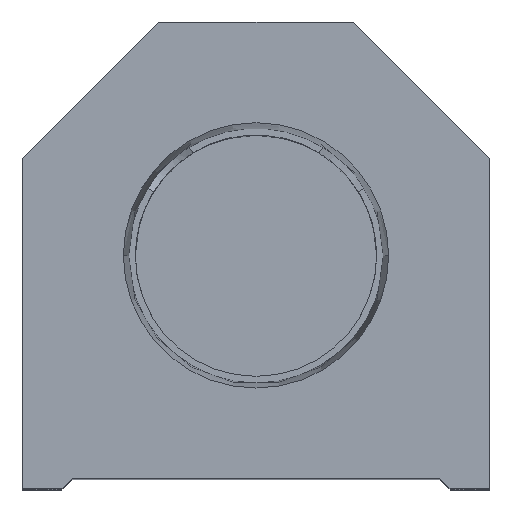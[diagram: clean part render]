
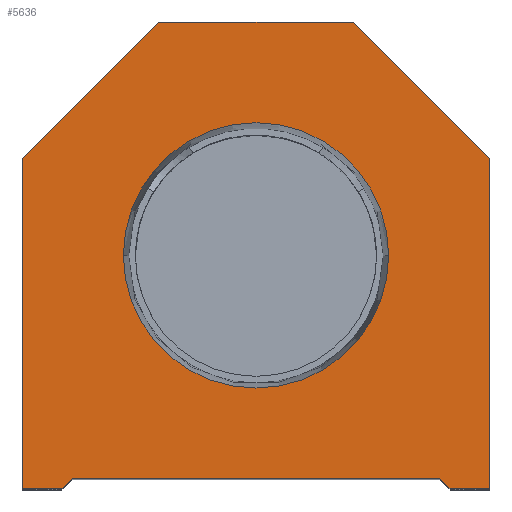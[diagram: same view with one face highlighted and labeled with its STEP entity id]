
A CAD part, top view. The second image highlights one B-rep face of the part: STEP entity #5636.
In plain terms, the highlighted planar face has unit normal (0, 0, 1).
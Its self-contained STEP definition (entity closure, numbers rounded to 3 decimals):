
#12 = CARTESIAN_POINT ( 'NONE',  ( -9.25, 9.25, 0. ) ) ;
#229 = VECTOR ( 'NONE', #7846, 1000. ) ;
#536 = VECTOR ( 'NONE', #2665, 1000. ) ;
#768 = CARTESIAN_POINT ( 'NONE',  ( 22.25, 0., 0. ) ) ;
#825 = CARTESIAN_POINT ( 'NONE',  ( 0., 0., 0. ) ) ;
#911 = LINE ( 'NONE', #18359, #536 ) ;
#1008 = ORIENTED_EDGE ( 'NONE', *, *, #8110, .T. ) ;
#1281 = VERTEX_POINT ( 'NONE', #10332 ) ;
#1407 = EDGE_CURVE ( 'NONE', #5746, #14649, #14899, .T. ) ;
#1454 = EDGE_CURVE ( 'NONE', #6458, #1915, #911, .T. ) ;
#1888 = CARTESIAN_POINT ( 'NONE',  ( 22.25, 31.5, 0. ) ) ;
#1915 = VERTEX_POINT ( 'NONE', #8587 ) ;
#2560 = EDGE_CURVE ( 'NONE', #14453, #5746, #16143, .T. ) ;
#2564 = DIRECTION ( 'NONE',  ( 0.707, -0.707, 0. ) ) ;
#2656 = VECTOR ( 'NONE', #14077, 1000. ) ;
#2665 = DIRECTION ( 'NONE',  ( 1., 0., 0. ) ) ;
#2753 = ORIENTED_EDGE ( 'NONE', *, *, #17140, .F. ) ;
#2993 = VERTEX_POINT ( 'NONE', #14146 ) ;
#3255 = CARTESIAN_POINT ( 'NONE',  ( 9.25, 44.5, 0. ) ) ;
#3690 = VERTEX_POINT ( 'NONE', #17332 ) ;
#4191 = ORIENTED_EDGE ( 'NONE', *, *, #2560, .T. ) ;
#4541 = LINE ( 'NONE', #10265, #16529 ) ;
#4556 = VECTOR ( 'NONE', #13725, 1000. ) ;
#4579 = CARTESIAN_POINT ( 'NONE',  ( -22.25, 31.5, 0. ) ) ;
#4732 = DIRECTION ( 'NONE',  ( -1., 0., 0. ) ) ;
#5038 = EDGE_CURVE ( 'NONE', #2993, #13593, #7994, .T. ) ;
#5636 = ADVANCED_FACE ( 'NONE', ( #15078, #6550 ), #13766, .T. ) ;
#5655 = CIRCLE ( 'NONE', #8309, 12.647 ) ;
#5746 = VERTEX_POINT ( 'NONE', #12251 ) ;
#6011 = CARTESIAN_POINT ( 'NONE',  ( -22.25, 0., 0. ) ) ;
#6127 = EDGE_CURVE ( 'NONE', #8175, #8854, #4541, .T. ) ;
#6164 = LINE ( 'NONE', #1888, #6394 ) ;
#6294 = CARTESIAN_POINT ( 'NONE',  ( -17.5, 1., 0. ) ) ;
#6394 = VECTOR ( 'NONE', #7918, 1000. ) ;
#6436 = AXIS2_PLACEMENT_3D ( 'NONE', #825, #6465, #12204 ) ;
#6458 = VERTEX_POINT ( 'NONE', #6294 ) ;
#6465 = DIRECTION ( 'NONE',  ( 0., 0., 1. ) ) ;
#6497 = VERTEX_POINT ( 'NONE', #16213 ) ;
#6550 = FACE_OUTER_BOUND ( 'NONE', #14348, .T. ) ;
#6985 = LINE ( 'NONE', #9823, #15959 ) ;
#7029 = CARTESIAN_POINT ( 'NONE',  ( 0., 22.25, 0. ) ) ;
#7383 = EDGE_CURVE ( 'NONE', #1281, #6497, #12078, .T. ) ;
#7776 = DIRECTION ( 'NONE',  ( 0., -1., 0. ) ) ;
#7846 = DIRECTION ( 'NONE',  ( -0.707, -0.707, 0. ) ) ;
#7918 = DIRECTION ( 'NONE',  ( -0.707, 0.707, 0. ) ) ;
#7985 = EDGE_CURVE ( 'NONE', #1915, #2993, #6985, .T. ) ;
#7994 = LINE ( 'NONE', #15402, #4556 ) ;
#8009 = EDGE_LOOP ( 'NONE', ( #2753, #11025 ) ) ;
#8110 = EDGE_CURVE ( 'NONE', #3690, #14453, #6164, .T. ) ;
#8118 = ORIENTED_EDGE ( 'NONE', *, *, #7985, .T. ) ;
#8175 = VERTEX_POINT ( 'NONE', #12623 ) ;
#8309 = AXIS2_PLACEMENT_3D ( 'NONE', #13192, #10496, #13383 ) ;
#8587 = CARTESIAN_POINT ( 'NONE',  ( 17.5, 1., 0. ) ) ;
#8638 = ORIENTED_EDGE ( 'NONE', *, *, #1407, .T. ) ;
#8690 = CARTESIAN_POINT ( 'NONE',  ( 22.25, 0., 0. ) ) ;
#8854 = VERTEX_POINT ( 'NONE', #14665 ) ;
#9114 = VECTOR ( 'NONE', #7776, 1000. ) ;
#9823 = CARTESIAN_POINT ( 'NONE',  ( 9.25, 9.25, 0. ) ) ;
#9973 = LINE ( 'NONE', #12, #2656 ) ;
#10265 = CARTESIAN_POINT ( 'NONE',  ( -17.5, 0., 0. ) ) ;
#10332 = CARTESIAN_POINT ( 'NONE',  ( -12.647, 22.25, 0. ) ) ;
#10496 = DIRECTION ( 'NONE',  ( 0., 0., 1. ) ) ;
#10716 = ORIENTED_EDGE ( 'NONE', *, *, #1454, .T. ) ;
#11025 = ORIENTED_EDGE ( 'NONE', *, *, #7383, .F. ) ;
#11465 = DIRECTION ( 'NONE',  ( 1., 0., 0. ) ) ;
#11734 = ORIENTED_EDGE ( 'NONE', *, *, #13169, .T. ) ;
#12078 = CIRCLE ( 'NONE', #15343, 12.647 ) ;
#12204 = DIRECTION ( 'NONE',  ( 1., 0., 0. ) ) ;
#12251 = CARTESIAN_POINT ( 'NONE',  ( -9.25, 44.5, 0. ) ) ;
#12623 = CARTESIAN_POINT ( 'NONE',  ( -22.25, 0., 0. ) ) ;
#13169 = EDGE_CURVE ( 'NONE', #14649, #8175, #17739, .T. ) ;
#13192 = CARTESIAN_POINT ( 'NONE',  ( 0., 22.25, 0. ) ) ;
#13383 = DIRECTION ( 'NONE',  ( 1., 0., 0. ) ) ;
#13593 = VERTEX_POINT ( 'NONE', #8690 ) ;
#13725 = DIRECTION ( 'NONE',  ( 1., 0., 0. ) ) ;
#13766 = PLANE ( 'NONE',  #6436 ) ;
#13799 = ORIENTED_EDGE ( 'NONE', *, *, #5038, .T. ) ;
#14077 = DIRECTION ( 'NONE',  ( 0.707, 0.707, 0. ) ) ;
#14146 = CARTESIAN_POINT ( 'NONE',  ( 18.5, 0., 0. ) ) ;
#14256 = DIRECTION ( 'NONE',  ( 0., 0., 1. ) ) ;
#14348 = EDGE_LOOP ( 'NONE', ( #16878, #17856, #10716, #8118, #13799, #15382, #1008, #4191, #8638, #11734 ) ) ;
#14453 = VERTEX_POINT ( 'NONE', #14587 ) ;
#14587 = CARTESIAN_POINT ( 'NONE',  ( 9.25, 44.5, 0. ) ) ;
#14649 = VERTEX_POINT ( 'NONE', #4579 ) ;
#14665 = CARTESIAN_POINT ( 'NONE',  ( -18.5, 0., 0. ) ) ;
#14731 = DIRECTION ( 'NONE',  ( 0., 1., 0. ) ) ;
#14899 = LINE ( 'NONE', #16401, #229 ) ;
#14926 = LINE ( 'NONE', #768, #15201 ) ;
#15078 = FACE_BOUND ( 'NONE', #8009, .T. ) ;
#15201 = VECTOR ( 'NONE', #14731, 1000. ) ;
#15343 = AXIS2_PLACEMENT_3D ( 'NONE', #7029, #14256, #11465 ) ;
#15382 = ORIENTED_EDGE ( 'NONE', *, *, #16671, .T. ) ;
#15402 = CARTESIAN_POINT ( 'NONE',  ( 17.5, 0., 0. ) ) ;
#15959 = VECTOR ( 'NONE', #2564, 1000. ) ;
#16092 = EDGE_CURVE ( 'NONE', #8854, #6458, #9973, .T. ) ;
#16143 = LINE ( 'NONE', #3255, #16599 ) ;
#16213 = CARTESIAN_POINT ( 'NONE',  ( 12.647, 22.25, 0. ) ) ;
#16401 = CARTESIAN_POINT ( 'NONE',  ( -22.25, 31.5, 0. ) ) ;
#16529 = VECTOR ( 'NONE', #17006, 1000. ) ;
#16599 = VECTOR ( 'NONE', #4732, 1000. ) ;
#16671 = EDGE_CURVE ( 'NONE', #13593, #3690, #14926, .T. ) ;
#16878 = ORIENTED_EDGE ( 'NONE', *, *, #6127, .T. ) ;
#17006 = DIRECTION ( 'NONE',  ( 1., 0., 0. ) ) ;
#17140 = EDGE_CURVE ( 'NONE', #6497, #1281, #5655, .T. ) ;
#17332 = CARTESIAN_POINT ( 'NONE',  ( 22.25, 31.5, 0. ) ) ;
#17739 = LINE ( 'NONE', #6011, #9114 ) ;
#17856 = ORIENTED_EDGE ( 'NONE', *, *, #16092, .T. ) ;
#18359 = CARTESIAN_POINT ( 'NONE',  ( -17.5, 1., 0. ) ) ;
